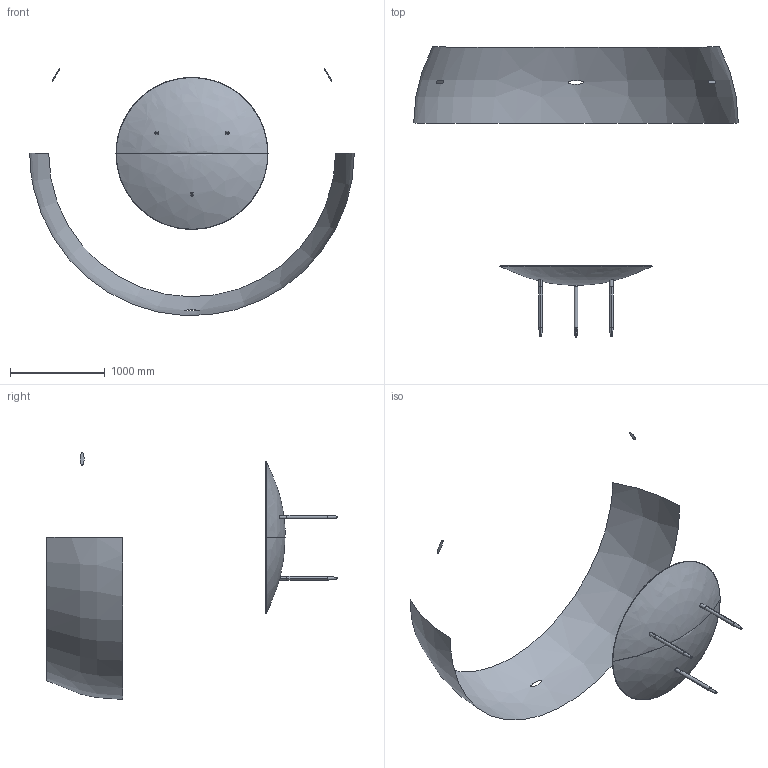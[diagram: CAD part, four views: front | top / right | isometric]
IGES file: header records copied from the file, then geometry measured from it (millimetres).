
Start section: SolidWorks IGES file using analytic representation for surfaces
Global section: file name: \\UTENTI\Dati Utenti\Tecnico\DC\2D - 3D per sito\3D\DeCastelli-3D-Roma 160.igs; native system: SolidWorks 2022; preprocessor: SolidWorks 2022; author: Silviad; date: 240711.172709; units: millimetre
Bounding box: 3419.46 x 3057.03 x 2600.79 mm (x, y, z)
Surface area: 11831880.8 mm2 (no closed solid volume)
Topology: 0 solids, 0 shells, 39 faces, 544 edges, 542 vertices
Faces by surface type: revolution 28, bspline 11
